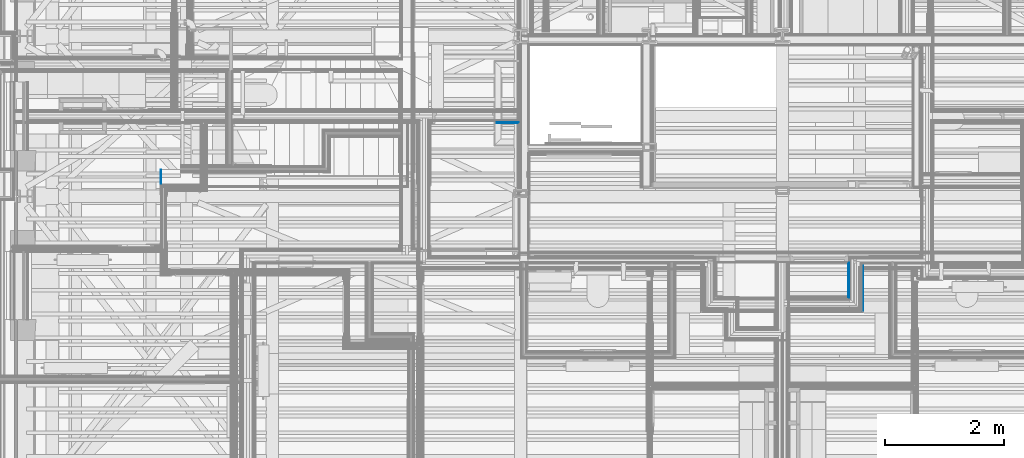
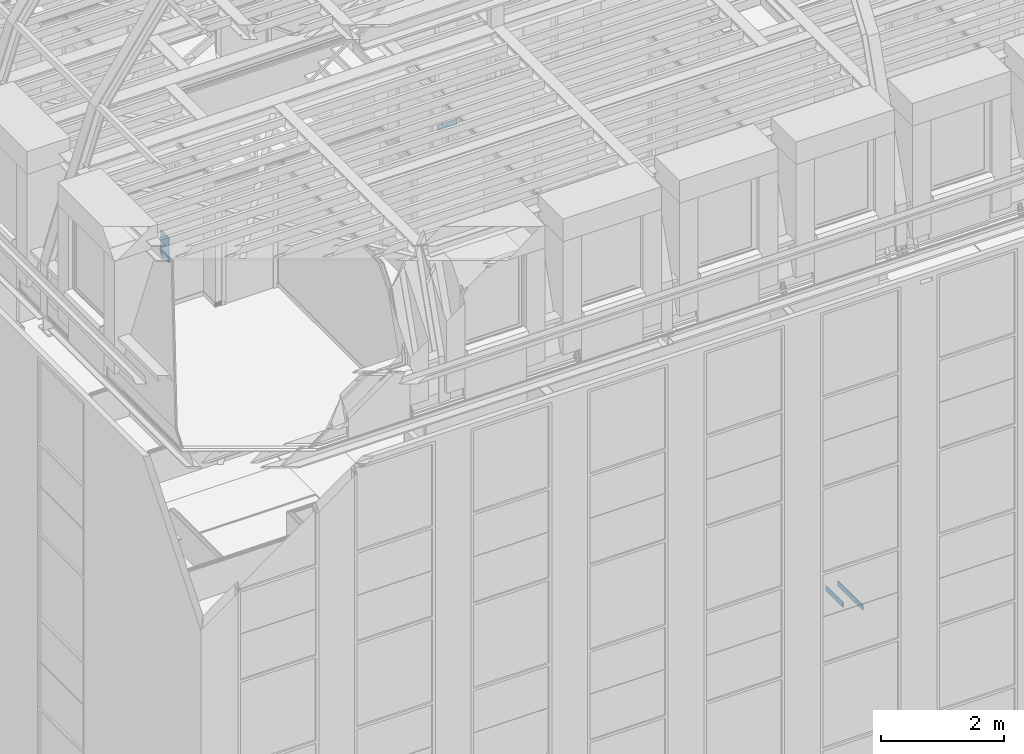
# One storey, part 22 of 183: 4 walls, 1 opening.
"""IFC2X3 building model written with IfcOpenShell, lengths in metres."""

from ifc_helpers import new_model, entity, si_unit, converted_unit, derived_unit, money_unit, direction, frame, frame_2d, origin_with_axes, place, context, subcontext, project, spatial, polyline, rectangle, outline, extrude, material, layer, layer_set, layer_usage, type_object, element, save


model = new_model("IFC2X3")

# Units and contexts
model_context = context("Model", 3, precision=1e-05, world=origin_with_axes(), true_north=direction((0.0, 1.0)))
body_context = subcontext(model_context, "Body", "Model", "MODEL_VIEW", scale=1.0)
ifc_project = project(units=[si_unit("LENGTHUNIT", "METRE"), si_unit("AREAUNIT", "SQUARE_METRE"), si_unit("VOLUMEUNIT", "CUBIC_METRE"), si_unit("ABSORBEDDOSEUNIT", "GRAY"), si_unit("AMOUNTOFSUBSTANCEUNIT", "MOLE"), si_unit("DOSEEQUIVALENTUNIT", "SIEVERT"), si_unit("ELECTRICCAPACITANCEUNIT", "FARAD"), si_unit("ELECTRICCHARGEUNIT", "COULOMB"), si_unit("ELECTRICCONDUCTANCEUNIT", "SIEMENS"), si_unit("ELECTRICCURRENTUNIT", "AMPERE"), si_unit("ELECTRICRESISTANCEUNIT", "OHM"), si_unit("ELECTRICVOLTAGEUNIT", "VOLT"), si_unit("ENERGYUNIT", "JOULE"), si_unit("FORCEUNIT", "NEWTON"), si_unit("FREQUENCYUNIT", "HERTZ"), si_unit("ILLUMINANCEUNIT", "LUX"), si_unit("INDUCTANCEUNIT", "HENRY"), si_unit("LUMINOUSFLUXUNIT", "LUMEN"), si_unit("LUMINOUSINTENSITYUNIT", "CANDELA"), si_unit("MAGNETICFLUXDENSITYUNIT", "TESLA"), si_unit("MAGNETICFLUXUNIT", "WEBER"), si_unit("MASSUNIT", "GRAM"), converted_unit("PLANEANGLEUNIT", "degree", entity("IfcReal", 0.0174532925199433), si_unit("PLANEANGLEUNIT", "RADIAN"), dimensions=[0, 0, 0, 0, 0, 0, 0]), si_unit("POWERUNIT", "WATT"), si_unit("PRESSUREUNIT", "PASCAL"), si_unit("RADIOACTIVITYUNIT", "BECQUEREL"), si_unit("SOLIDANGLEUNIT", "STERADIAN"), si_unit("THERMODYNAMICTEMPERATUREUNIT", "KELVIN"), si_unit("TIMEUNIT", "SECOND"), derived_unit("ACCELERATIONUNIT", [(si_unit("LENGTHUNIT", "METRE"), 1), (si_unit("TIMEUNIT", "SECOND"), -2)]), derived_unit("ANGULARVELOCITYUNIT", [(converted_unit("PLANEANGLEUNIT", "degree", entity("IfcReal", 0.0174532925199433), si_unit("PLANEANGLEUNIT", "RADIAN"), dimensions=[0, 0, 0, 0, 0, 0, 0]), 1), (si_unit("TIMEUNIT", "SECOND"), -1)]), derived_unit("CURVATUREUNIT", [(converted_unit("PLANEANGLEUNIT", "degree", entity("IfcReal", 0.0174532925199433), si_unit("PLANEANGLEUNIT", "RADIAN"), dimensions=[0, 0, 0, 0, 0, 0, 0]), 1), (si_unit("LENGTHUNIT", "METRE"), -1)]), derived_unit("DYNAMICVISCOSITYUNIT", [(si_unit("PRESSUREUNIT", "PASCAL"), 1), (si_unit("TIMEUNIT", "SECOND"), 1)]), derived_unit("HEATFLUXDENSITYUNIT", [(si_unit("POWERUNIT", "WATT"), 1), (si_unit("LENGTHUNIT", "METRE"), -2)]), derived_unit("HEATINGVALUEUNIT", [(si_unit("ENERGYUNIT", "JOULE"), 1), (si_unit("MASSUNIT", "GRAM"), -1)]), derived_unit("INTEGERCOUNTRATEUNIT", [(si_unit("TIMEUNIT", "SECOND"), -1)]), derived_unit("IONCONCENTRATIONUNIT", [(si_unit("MASSUNIT", "GRAM"), 1), (si_unit("VOLUMEUNIT", "CUBIC_METRE"), -1)]), derived_unit("ISOTHERMALMOISTURECAPACITYUNIT", [(si_unit("VOLUMEUNIT", "CUBIC_METRE"), 1), (si_unit("MASSUNIT", "GRAM"), -1)]), derived_unit("KINEMATICVISCOSITYUNIT", [(si_unit("AREAUNIT", "SQUARE_METRE"), 1), (si_unit("TIMEUNIT", "SECOND"), -1)]), derived_unit("LINEARFORCEUNIT", [(si_unit("FORCEUNIT", "NEWTON"), 1), (si_unit("LENGTHUNIT", "METRE"), -1)]), derived_unit("LINEARMOMENTUNIT", [(si_unit("FORCEUNIT", "NEWTON"), 1), (si_unit("LENGTHUNIT", "METRE"), -1)]), derived_unit("LINEARSTIFFNESSUNIT", [(si_unit("FORCEUNIT", "NEWTON"), 1), (si_unit("LENGTHUNIT", "METRE"), -1)]), derived_unit("LINEARVELOCITYUNIT", [(si_unit("LENGTHUNIT", "METRE"), 1), (si_unit("TIMEUNIT", "SECOND"), -1)]), derived_unit("LUMINOUSINTENSITYDISTRIBUTIONUNIT", [(si_unit("LUMINOUSINTENSITYUNIT", "CANDELA"), 1), (si_unit("LUMINOUSFLUXUNIT", "LUMEN"), -1)]), derived_unit("MASSDENSITYUNIT", [(si_unit("MASSUNIT", "GRAM"), 1), (si_unit("VOLUMEUNIT", "CUBIC_METRE"), -1)]), derived_unit("MASSFLOWRATEUNIT", [(si_unit("MASSUNIT", "GRAM"), 1), (si_unit("TIMEUNIT", "SECOND"), -1)]), derived_unit("MASSPERLENGTHUNIT", [(si_unit("MASSUNIT", "GRAM"), 1), (si_unit("LENGTHUNIT", "METRE"), -1)]), derived_unit("MODULUSOFELASTICITYUNIT", [(si_unit("FORCEUNIT", "NEWTON"), 1), (si_unit("AREAUNIT", "SQUARE_METRE"), -1)]), derived_unit("MODULUSOFLINEARSUBGRADEREACTIONUNIT", [(si_unit("FORCEUNIT", "NEWTON"), 1), (si_unit("LENGTHUNIT", "METRE"), -2)]), derived_unit("MODULUSOFROTATIONALSUBGRADEREACTIONUNIT", [(si_unit("FORCEUNIT", "NEWTON"), 1), (si_unit("LENGTHUNIT", "METRE"), 1)]), derived_unit("MODULUSOFSUBGRADEREACTIONUNIT", [(si_unit("FORCEUNIT", "NEWTON"), 1), (si_unit("VOLUMEUNIT", "CUBIC_METRE"), -1)]), derived_unit("MOISTUREDIFFUSIVITYUNIT", [(si_unit("VOLUMEUNIT", "CUBIC_METRE"), 1), (si_unit("TIMEUNIT", "SECOND"), -1)]), derived_unit("MOLECULARWEIGHTUNIT", [(si_unit("MASSUNIT", "GRAM"), 1), (si_unit("AMOUNTOFSUBSTANCEUNIT", "MOLE"), -1)]), derived_unit("PLANARFORCEUNIT", [(si_unit("FORCEUNIT", "NEWTON"), 1), (si_unit("LENGTHUNIT", "METRE"), -2)]), derived_unit("ROTATIONALFREQUENCYUNIT", [(si_unit("TIMEUNIT", "SECOND"), -1)]), derived_unit("ROTATIONALMASSUNIT", [(si_unit("MASSUNIT", "GRAM"), 1), (si_unit("LENGTHUNIT", "METRE"), 2)]), derived_unit("ROTATIONALSTIFFNESSUNIT", [(si_unit("FORCEUNIT", "NEWTON"), 1), (si_unit("LENGTHUNIT", "METRE"), 1), (converted_unit("PLANEANGLEUNIT", "degree", entity("IfcReal", 0.0174532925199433), si_unit("PLANEANGLEUNIT", "RADIAN"), dimensions=[0, 0, 0, 0, 0, 0, 0]), -1)]), derived_unit("SECTIONAREAINTEGRALUNIT", [(si_unit("LENGTHUNIT", "METRE"), 5)]), derived_unit("SECTIONMODULUSUNIT", [(si_unit("LENGTHUNIT", "METRE"), 3)]), derived_unit("SHEARMODULUSUNIT", [(si_unit("FORCEUNIT", "NEWTON"), 1), (si_unit("AREAUNIT", "SQUARE_METRE"), -1)]), derived_unit("SOUNDPOWERUNIT", [(si_unit("ENERGYUNIT", "JOULE"), 1), (si_unit("TIMEUNIT", "SECOND"), -1)]), derived_unit("SPECIFICHEATCAPACITYUNIT", [(si_unit("FORCEUNIT", "NEWTON"), 1), (si_unit("MASSUNIT", "GRAM"), -1), (si_unit("THERMODYNAMICTEMPERATUREUNIT", "KELVIN"), -1)]), derived_unit("TEMPERATUREGRADIENTUNIT", [(si_unit("THERMODYNAMICTEMPERATUREUNIT", "KELVIN"), 1), (si_unit("LENGTHUNIT", "METRE"), -1)]), derived_unit("THERMALADMITTANCEUNIT", [(si_unit("POWERUNIT", "WATT"), 1), (si_unit("AREAUNIT", "SQUARE_METRE"), -1), (si_unit("THERMODYNAMICTEMPERATUREUNIT", "KELVIN"), -1)]), derived_unit("THERMALCONDUCTANCEUNIT", [(si_unit("POWERUNIT", "WATT"), 1), (si_unit("LENGTHUNIT", "METRE"), -1), (si_unit("THERMODYNAMICTEMPERATUREUNIT", "KELVIN"), -1)]), derived_unit("THERMALEXPANSIONCOEFFICIENTUNIT", [(si_unit("THERMODYNAMICTEMPERATUREUNIT", "KELVIN"), -1)]), derived_unit("THERMALRESISTANCEUNIT", [(si_unit("AREAUNIT", "SQUARE_METRE"), 1), (si_unit("POWERUNIT", "WATT"), -1)]), derived_unit("THERMALTRANSMITTANCEUNIT", [(si_unit("POWERUNIT", "WATT"), 1), (si_unit("AREAUNIT", "SQUARE_METRE"), -1), (si_unit("THERMODYNAMICTEMPERATUREUNIT", "KELVIN"), -1)]), derived_unit("TORQUEUNIT", [(si_unit("FORCEUNIT", "NEWTON"), 1), (si_unit("LENGTHUNIT", "METRE"), 1)]), derived_unit("VAPORPERMEABILITYUNIT", [(si_unit("MASSUNIT", "GRAM"), 1), (si_unit("TIMEUNIT", "SECOND"), -1)]), derived_unit("VOLUMETRICFLOWRATEUNIT", [(si_unit("VOLUMEUNIT", "CUBIC_METRE"), 1), (si_unit("TIMEUNIT", "SECOND"), -1)]), derived_unit("WARPINGCONSTANTUNIT", [(si_unit("LENGTHUNIT", "METRE"), 6)]), derived_unit("WARPINGMOMENTUNIT", [(si_unit("FORCEUNIT", "NEWTON"), 1), (si_unit("LENGTHUNIT", "METRE"), 2)]), money_unit("GBP")], contexts=[model_context])

# Site, building, storey
site_placement = place(None, origin_with_axes())
site = spatial("IfcSite", under=ifc_project, at=site_placement, Name="Site", CompositionType="ELEMENT")
building_placement = place(site_placement, origin_with_axes())
building = spatial("IfcBuilding", under=site, at=building_placement, Name="Building01", CompositionType="ELEMENT")
storey_placement = place(building_placement, frame((0.0, 0.0, 5.15), z_axis=(0.0, 0.0, 1.0), x_axis=(1.0, 0.0, 0.0)))
storey = spatial("IfcBuildingStorey", under=building, at=storey_placement, Name="1F", CompositionType="ELEMENT", Elevation=5.15)

# Walls
ifc_material = material(Name="A_BSUK_Walls_Timber")
ifc_layer = layer(ifc_material, 0.015, ventilated=False)
ifc_layer_set = layer_set([ifc_layer])
ifc_layer_usage = layer_usage(ifc_layer_set, "AXIS2", "POSITIVE", 0.0)
wall_type = type_object("IfcWallType", Name="default", PredefinedType="NOTDEFINED")
wall_1_placement = place(storey_placement, frame((14.61, 4.965, 0.015), z_axis=(0.0, 0.0, 1.0), x_axis=(0.0, -1.0, 0.0)))
element("IfcWallStandardCase", 1, at=wall_1_placement, inside=storey, type_object=wall_type, material=ifc_layer_usage, Name="default", ObjectType="default", context=body_context, shape_type="SweptSolid", body=[
    extrude(outline(polyline([(0.575572, 0.015), (-0.015, 0.015), (0.0, 0.0), (0.560572, 0.0), (0.575572, 0.015)])), origin_with_axes(), (0.0, 0.0, 1.0), 0.1),
])
wall_2_placement = place(storey_placement, frame((14.85, 4.98, 0.015), z_axis=(0.0, 0.0, 1.0), x_axis=(0.0, -1.0, 0.0)))
element("IfcWallStandardCase", 2, at=wall_2_placement, inside=storey, type_object=wall_type, material=ifc_layer_usage, Name="default", ObjectType="default", context=body_context, shape_type="SweptSolid", body=[
    extrude(rectangle(XDim=0.815572, YDim=0.015, at=frame_2d((0.407786, 0.0075), x_axis=(-1.0, 0.0))), origin_with_axes(), (0.0, 0.0, 1.0), 0.1),
])

# Wall, opening
wall_3_placement = place(storey_placement, frame((9.06, 7.349939, 9.795), z_axis=(0.0, 0.0, 1.0), x_axis=(-1.0, 0.0, 0.0)))
wall_3 = element("IfcWallStandardCase", 3, at=wall_3_placement, inside=storey, type_object=wall_type, material=ifc_layer_usage, Name="default", ObjectType="default", context=body_context, shape_type="SweptSolid", body=[
    extrude(outline(polyline([(0.015, 0.015), (0.0, 0.0), (1.458, 0.0), (1.458, 0.015), (0.015, 0.015)])), origin_with_axes(), (0.0, 0.0, 1.0), 0.1),
])
opening_placement = place(wall_3_placement, frame((0.374, 0.0, -0.015), z_axis=(0.0, 0.0, 1.0), x_axis=(1.0, 0.0, 0.0)))
element("IfcOpeningElement", 4, at=opening_placement, cuts=wall_3, Name="Opening", ObjectType="Opening", context=body_context, shape_type="SweptSolid", body=[
    extrude(rectangle(XDim=2.142, YDim=1.084, at=frame_2d((-0.542, 1.071), x_axis=(0.0, -1.0))), frame((0.0, 0.0, 0.0), z_axis=(0.0, 1.0, 0.0), x_axis=(-1.0, 0.0, 0.0)), (0.0, 0.0, 1.0), 0.015),
])

# Wall
wall_4_placement = place(storey_placement, frame((3.039976, 6.279939, 9.78), z_axis=(0.0, 0.0, 1.0), x_axis=(0.0, 1.0, 0.0)))
element("IfcWallStandardCase", 5, at=wall_4_placement, inside=storey, type_object=wall_type, material=ifc_layer_usage, Name="default", ObjectType="default", context=body_context, shape_type="SweptSolid", body=[
    extrude(rectangle(XDim=0.27, YDim=0.015, at=frame_2d((0.135, 0.0075), x_axis=(-1.0, 0.0))), origin_with_axes(), (0.0, 0.0, 1.0), 0.5),
])

save(model, "model.ifc")
